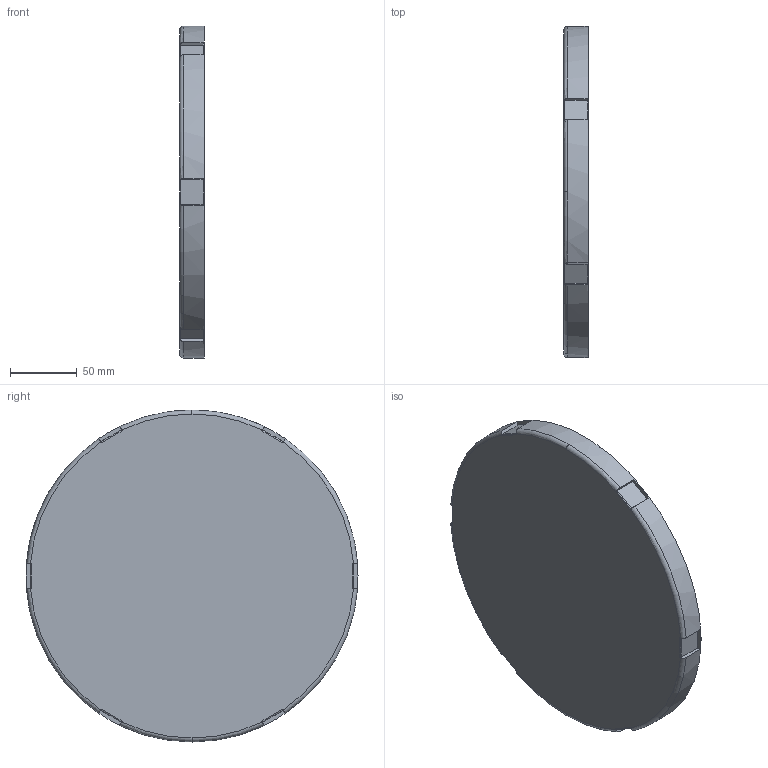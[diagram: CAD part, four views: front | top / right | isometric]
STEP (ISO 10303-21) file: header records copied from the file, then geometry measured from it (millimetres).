
FILE_DESCRIPTION((''),'2;1');
FILE_NAME('W:\212-314.stp','2004-01-08T16:00:37',('KAA'),(''),'Autodesk Inventor (R) 6.0','Autodesk Inventor (R) 6.0','');
FILE_SCHEMA(('CONFIG_CONTROL_DESIGN'));
Length unit declared in the file: millimetre
Products named in the file (1): 212-314
Bounding box: 18.5 x 248 x 248 mm (x, y, z)
Volume: 61637.8 mm3; surface area: 124052.9 mm2
Topology: 1 solids, 1 shells, 105 faces, 309 edges, 205 vertices
Faces by surface type: plane 45, cylinder 44, bspline 8, torus 8
Entity records: 3969 total; most frequent: CARTESIAN_POINT 1062, ORIENTED_EDGE 614, DIRECTION 592, EDGE_CURVE 307, AXIS2_PLACEMENT_3D 223, VERTEX_POINT 205, VECTOR 146, LINE 146
